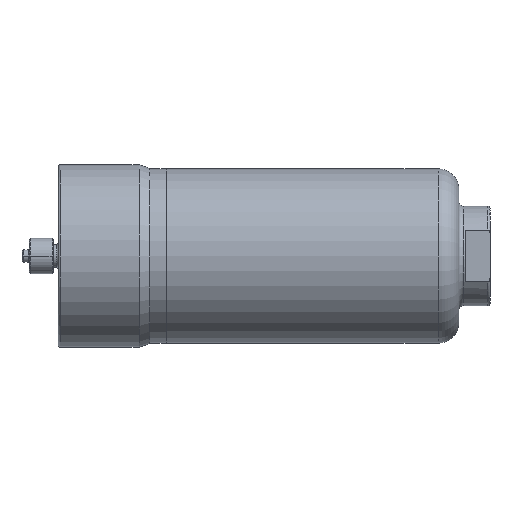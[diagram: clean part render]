
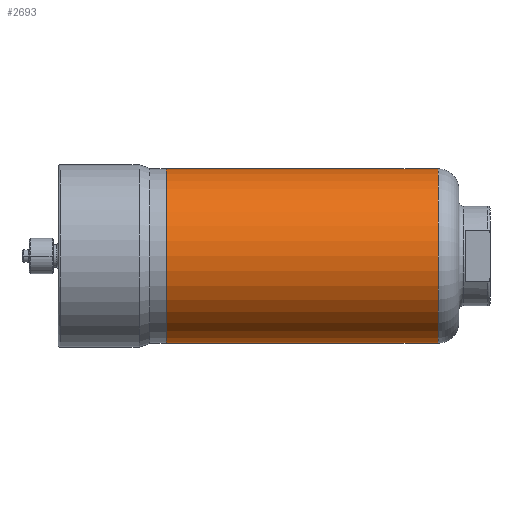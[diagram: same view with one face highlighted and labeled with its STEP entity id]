
A CAD part, left-side view. The second image highlights one B-rep face of the part: STEP entity #2693.
In plain terms, the highlighted cylindrical face has radius 42 mm (diameter 84 mm), a partial arc.
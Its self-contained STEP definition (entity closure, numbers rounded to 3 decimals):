
#110 = VERTEX_POINT ( 'NONE', #5257 ) ;
#298 = CARTESIAN_POINT ( 'NONE',  ( 0., 0., 42. ) ) ;
#715 = LINE ( 'NONE', #5116, #3203 ) ;
#898 = AXIS2_PLACEMENT_3D ( 'NONE', #3045, #3185, #2103 ) ;
#961 = AXIS2_PLACEMENT_3D ( 'NONE', #5679, #4495, #4524 ) ;
#1095 = EDGE_CURVE ( 'NONE', #110, #4120, #1976, .T. ) ;
#1119 = CIRCLE ( 'NONE', #898, 42. ) ;
#1976 = LINE ( 'NONE', #298, #6542 ) ;
#2103 = DIRECTION ( 'NONE',  ( 0., 0., 1. ) ) ;
#2109 = ORIENTED_EDGE ( 'NONE', *, *, #3511, .T. ) ;
#2280 = FACE_OUTER_BOUND ( 'NONE', #4342, .T. ) ;
#2295 = ORIENTED_EDGE ( 'NONE', *, *, #1095, .F. ) ;
#2361 = VERTEX_POINT ( 'NONE', #5674 ) ;
#2543 = DIRECTION ( 'NONE',  ( 0., -1., 0. ) ) ;
#2693 = ADVANCED_FACE ( 'NONE', ( #2280 ), #3923, .T. ) ;
#2900 = CARTESIAN_POINT ( 'NONE',  ( 0., 25., -42. ) ) ;
#3045 = CARTESIAN_POINT ( 'NONE',  ( 0., 156., 0. ) ) ;
#3185 = DIRECTION ( 'NONE',  ( 0., 1., 0. ) ) ;
#3203 = VECTOR ( 'NONE', #3955, 1000. ) ;
#3511 = EDGE_CURVE ( 'NONE', #2361, #5433, #715, .T. ) ;
#3581 = ORIENTED_EDGE ( 'NONE', *, *, #6788, .F. ) ;
#3700 = CARTESIAN_POINT ( 'NONE',  ( 0., 25., 42. ) ) ;
#3893 = DIRECTION ( 'NONE',  ( 0., -1., 0. ) ) ;
#3923 = CYLINDRICAL_SURFACE ( 'NONE', #4335, 42. ) ;
#3955 = DIRECTION ( 'NONE',  ( 0., -1., 0. ) ) ;
#4120 = VERTEX_POINT ( 'NONE', #3700 ) ;
#4186 = ORIENTED_EDGE ( 'NONE', *, *, #4518, .F. ) ;
#4335 = AXIS2_PLACEMENT_3D ( 'NONE', #6044, #3893, #5910 ) ;
#4342 = EDGE_LOOP ( 'NONE', ( #2295, #3581, #2109, #4186 ) ) ;
#4495 = DIRECTION ( 'NONE',  ( 0., -1., 0. ) ) ;
#4518 = EDGE_CURVE ( 'NONE', #4120, #5433, #6764, .T. ) ;
#4524 = DIRECTION ( 'NONE',  ( 0., 0., -1. ) ) ;
#5116 = CARTESIAN_POINT ( 'NONE',  ( 0., 0., -42. ) ) ;
#5257 = CARTESIAN_POINT ( 'NONE',  ( 0., 156., 42. ) ) ;
#5433 = VERTEX_POINT ( 'NONE', #2900 ) ;
#5674 = CARTESIAN_POINT ( 'NONE',  ( 0., 156., -42. ) ) ;
#5679 = CARTESIAN_POINT ( 'NONE',  ( 0., 25., 0. ) ) ;
#5910 = DIRECTION ( 'NONE',  ( 0., 0., -1. ) ) ;
#6044 = CARTESIAN_POINT ( 'NONE',  ( 0., 0., 0. ) ) ;
#6542 = VECTOR ( 'NONE', #2543, 1000. ) ;
#6764 = CIRCLE ( 'NONE', #961, 42. ) ;
#6788 = EDGE_CURVE ( 'NONE', #2361, #110, #1119, .T. ) ;
